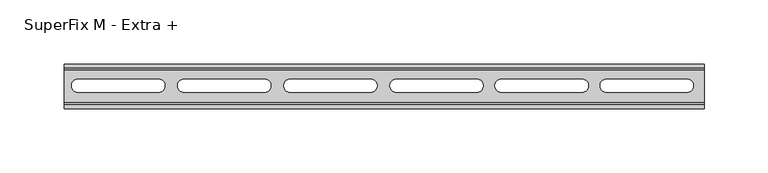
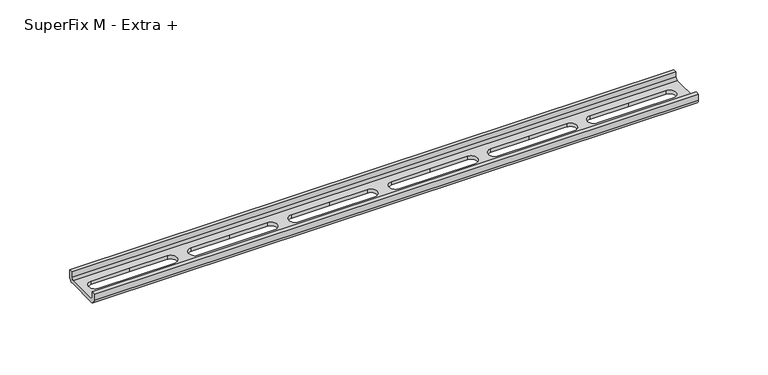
"""IFC4 building model written with IfcOpenShell, lengths in millimetres: valve geometry, Superfix M : SuperFix M - Extra +."""

from ifc_helpers import new_model, si_unit, frame, origin, place, context, project, spatial, polyline, circle_curve, source, transform, mapped, element, save
from ifc_brep_helpers import plane_surface, cylinder_surface, revolved_surface, advanced_brep


def superfix_m_extra_beb970f8(model_context):
    return source(origin(), model_context, "Body", "AdvancedBrep", [
        advanced_brep(
        [(250.0, -17.5, 4.0), (250.0, -13.5, 0.0), (250.0, 13.5, 0.0), (250.0, 17.5, 4.0), (250.0, 17.5, 9.5), (250.0, 14.5, 9.5), (250.0, 14.5, 5.0), (250.0, 12.5, 3.0), (250.0, -12.5, 3.0), (250.0, -14.5, 5.0), (250.0, -14.5, 9.5), (250.0, -17.5, 9.5), (-250.0, -17.5, 4.0), (-250.0, -17.5, 9.5), (-250.0, -14.5, 9.5), (-250.0, -14.5, 5.0), (-250.0, -12.5, 3.0), (-250.0, 12.5, 3.0), (-250.0, 14.5, 5.0), (-250.0, 14.5, 9.5), (-250.0, 17.5, 9.5), (-250.0, 17.5, 4.0), (-250.0, 13.5, 0.0), (-250.0, -13.5, 0.0), (41.0500085, 5.695602, 0.0), (9.7000085, 5.695602, 0.0), (9.7000085, -4.604398, 0.0), (41.0500085, -4.604398, 0.0), (72.4000085, -4.604398, 0.0), (72.4000085, 5.695602, 0.0), (123.1857215, 5.695602, 0.0), (91.8357215, 5.695602, 0.0), (91.8357215, -4.604398, 0.0), (123.1857215, -4.604398, 0.0), (154.5357215, -4.604398, 0.0), (154.5357215, 5.695602, 0.0), (205.3214346, 5.695602, 0.0), (173.9714346, 5.695602, 0.0), (173.9714346, -4.604398, 0.0), (205.3214346, -4.604398, 0.0), (236.6714346, -4.604398, 0.0), (236.6714346, 5.695602, 0.0), (-41.8529629, 5.695602, 0.0), (-73.2029629, 5.695602, 0.0), (-73.2029629, -4.604398, 0.0), (-41.8529629, -4.604398, 0.0), (-10.5029629, -4.604398, 0.0), (-10.5029629, 5.695602, 0.0), (-124.7559344, 5.695602, 0.0), (-156.1059344, 5.695602, 0.0), (-156.1059344, -4.604398, 0.0), (-124.7559344, -4.604398, 0.0), (-93.4059344, -4.604398, 0.0), (-93.4059344, 5.695602, 0.0), (-207.6589058, 5.695602, 0.0), (-239.0089058, 5.695602, 0.0), (-239.0089058, -4.604398, 0.0), (-207.6589058, -4.604398, 0.0), (-176.3089058, -4.604398, 0.0), (-176.3089058, 5.695602, 0.0), (9.7000085, 5.695602, 3.0), (41.0500085, 5.695602, 3.0), (72.4000085, 5.695602, 3.0), (72.4000085, -4.604398, 3.0), (41.0500085, -4.604398, 3.0), (9.7000085, -4.604398, 3.0), (91.8357215, 5.695602, 3.0), (123.1857215, 5.695602, 3.0), (154.5357215, 5.695602, 3.0), (154.5357215, -4.604398, 3.0), (123.1857215, -4.604398, 3.0), (91.8357215, -4.604398, 3.0), (173.9714346, 5.695602, 3.0), (205.3214346, 5.695602, 3.0), (236.6714346, 5.695602, 3.0), (236.6714346, -4.604398, 3.0), (205.3214346, -4.604398, 3.0), (173.9714346, -4.604398, 3.0), (-73.2029629, 5.695602, 3.0), (-41.8529629, 5.695602, 3.0), (-10.5029629, 5.695602, 3.0), (-10.5029629, -4.604398, 3.0), (-41.8529629, -4.604398, 3.0), (-73.2029629, -4.604398, 3.0), (-156.1059344, 5.695602, 3.0), (-124.7559344, 5.695602, 3.0), (-93.4059344, 5.695602, 3.0), (-93.4059344, -4.604398, 3.0), (-124.7559344, -4.604398, 3.0), (-156.1059344, -4.604398, 3.0), (-239.0089058, 5.695602, 3.0), (-207.6589058, 5.695602, 3.0), (-176.3089058, 5.695602, 3.0), (-176.3089058, -4.604398, 3.0), (-207.6589058, -4.604398, 3.0), (-239.0089058, -4.604398, 3.0)],
        [
            (0, 1, circle_curve(frame((250.0, -13.5, 4.0), z_axis=(1.0, 0.0, 0.0), x_axis=(0.0, 1.0, 0.0)), 4.0)),
            (1, 2),
            (2, 3, circle_curve(frame((250.0, 13.5, 4.0), z_axis=(1.0, 0.0, 0.0), x_axis=(0.0, 1.0, 0.0)), 4.0)),
            (3, 4),
            (4, 5),
            (5, 6),
            (6, 7, circle_curve(frame((250.0, 12.5, 5.0), z_axis=(-1.0, 0.0, 0.0), x_axis=(0.0, 1.0, 0.0)), 2.0)),
            (7, 8),
            (8, 9, circle_curve(frame((250.0, -12.5, 5.0), z_axis=(-1.0, 0.0, 0.0), x_axis=(0.0, 1.0, 0.0)), 2.0)),
            (9, 10),
            (10, 11),
            (11, 0),
            (12, 13),
            (13, 14),
            (14, 15),
            (15, 16, circle_curve(frame((-250.0, -12.5, 5.0), z_axis=(1.0, 0.0, 0.0), x_axis=(0.0, 1.0, 0.0)), 2.0)),
            (16, 17),
            (17, 18, circle_curve(frame((-250.0, 12.5, 5.0), z_axis=(1.0, 0.0, 0.0), x_axis=(0.0, 1.0, 0.0)), 2.0)),
            (18, 19),
            (19, 20),
            (20, 21),
            (21, 22, circle_curve(frame((-250.0, 13.5, 4.0), z_axis=(-1.0, 0.0, 0.0), x_axis=(0.0, 1.0, 0.0)), 4.0)),
            (22, 23),
            (23, 12, circle_curve(frame((-250.0, -13.5, 4.0), z_axis=(-1.0, 0.0, 0.0), x_axis=(0.0, 1.0, 0.0)), 4.0)),
            (1, 23),
            (22, 2),
            (24, 25),
            (25, 26, circle_curve(frame((9.7000085, 0.545602, 0.0), z_axis=(0.0, 0.0, 1.0), x_axis=(0.0, 1.0, 0.0)), 5.15)),
            (26, 27),
            (27, 28),
            (28, 29, circle_curve(frame((72.4000085, 0.545602, 0.0), z_axis=(0.0, 0.0, 1.0), x_axis=(0.0, 1.0, 0.0)), 5.15)),
            (29, 24),
            (30, 31),
            (31, 32, circle_curve(frame((91.8357215, 0.545602, 0.0), z_axis=(0.0, 0.0, 1.0), x_axis=(0.0, 1.0, 0.0)), 5.15)),
            (32, 33),
            (33, 34),
            (34, 35, circle_curve(frame((154.5357215, 0.545602, 0.0), z_axis=(0.0, 0.0, 1.0), x_axis=(0.0, 1.0, 0.0)), 5.15)),
            (35, 30),
            (36, 37),
            (37, 38, circle_curve(frame((173.9714346, 0.545602, 0.0), z_axis=(0.0, 0.0, 1.0), x_axis=(0.0, 1.0, 0.0)), 5.15)),
            (38, 39),
            (39, 40),
            (40, 41, circle_curve(frame((236.6714346, 0.545602, 0.0), z_axis=(0.0, 0.0, 1.0), x_axis=(0.0, 1.0, 0.0)), 5.15)),
            (41, 36),
            (42, 43),
            (43, 44, circle_curve(frame((-73.2029629, 0.545602, 0.0), z_axis=(0.0, 0.0, 1.0), x_axis=(0.0, 1.0, 0.0)), 5.15)),
            (44, 45),
            (45, 46),
            (46, 47, circle_curve(frame((-10.5029629, 0.545602, 0.0), z_axis=(0.0, 0.0, 1.0), x_axis=(0.0, 1.0, 0.0)), 5.15)),
            (47, 42),
            (48, 49),
            (49, 50, circle_curve(frame((-156.1059344, 0.545602, 0.0), z_axis=(0.0, 0.0, 1.0), x_axis=(0.0, 1.0, 0.0)), 5.15)),
            (50, 51),
            (51, 52),
            (52, 53, circle_curve(frame((-93.4059344, 0.545602, 0.0), z_axis=(0.0, 0.0, 1.0), x_axis=(0.0, 1.0, 0.0)), 5.15)),
            (53, 48),
            (54, 55),
            (55, 56, circle_curve(frame((-239.0089058, 0.545602, 0.0), z_axis=(0.0, 0.0, 1.0), x_axis=(0.0, 1.0, 0.0)), 5.15)),
            (56, 57),
            (57, 58),
            (58, 59, circle_curve(frame((-176.3089058, 0.545602, 0.0), z_axis=(0.0, 0.0, 1.0), x_axis=(0.0, 1.0, 0.0)), 5.15)),
            (59, 54),
            (3, 21),
            (20, 4),
            (19, 5),
            (18, 6),
            (7, 17),
            (16, 8),
            (60, 61),
            (61, 62),
            (62, 63, circle_curve(frame((72.4000085, 0.545602, 3.0), z_axis=(0.0, 0.0, -1.0), x_axis=(0.0, 1.0, 0.0)), 5.15)),
            (63, 64),
            (64, 65),
            (65, 60, circle_curve(frame((9.7000085, 0.545602, 3.0), z_axis=(0.0, 0.0, -1.0), x_axis=(0.0, 1.0, 0.0)), 5.15)),
            (66, 67),
            (67, 68),
            (68, 69, circle_curve(frame((154.5357215, 0.545602, 3.0), z_axis=(0.0, 0.0, -1.0), x_axis=(0.0, 1.0, 0.0)), 5.15)),
            (69, 70),
            (70, 71),
            (71, 66, circle_curve(frame((91.8357215, 0.545602, 3.0), z_axis=(0.0, 0.0, -1.0), x_axis=(0.0, 1.0, 0.0)), 5.15)),
            (72, 73),
            (73, 74),
            (74, 75, circle_curve(frame((236.6714346, 0.545602, 3.0), z_axis=(0.0, 0.0, -1.0), x_axis=(0.0, 1.0, 0.0)), 5.15)),
            (75, 76),
            (76, 77),
            (77, 72, circle_curve(frame((173.9714346, 0.545602, 3.0), z_axis=(0.0, 0.0, -1.0), x_axis=(0.0, 1.0, 0.0)), 5.15)),
            (78, 79),
            (79, 80),
            (80, 81, circle_curve(frame((-10.5029629, 0.545602, 3.0), z_axis=(0.0, 0.0, -1.0), x_axis=(0.0, 1.0, 0.0)), 5.15)),
            (81, 82),
            (82, 83),
            (83, 78, circle_curve(frame((-73.2029629, 0.545602, 3.0), z_axis=(0.0, 0.0, -1.0), x_axis=(0.0, 1.0, 0.0)), 5.15)),
            (84, 85),
            (85, 86),
            (86, 87, circle_curve(frame((-93.4059344, 0.545602, 3.0), z_axis=(0.0, 0.0, -1.0), x_axis=(0.0, 1.0, 0.0)), 5.15)),
            (87, 88),
            (88, 89),
            (89, 84, circle_curve(frame((-156.1059344, 0.545602, 3.0), z_axis=(0.0, 0.0, -1.0), x_axis=(0.0, 1.0, 0.0)), 5.15)),
            (90, 91),
            (91, 92),
            (92, 93, circle_curve(frame((-176.3089058, 0.545602, 3.0), z_axis=(0.0, 0.0, -1.0), x_axis=(0.0, 1.0, 0.0)), 5.15)),
            (93, 94),
            (94, 95),
            (95, 90, circle_curve(frame((-239.0089058, 0.545602, 3.0), z_axis=(0.0, 0.0, -1.0), x_axis=(0.0, 1.0, 0.0)), 5.15)),
            (9, 15),
            (14, 10),
            (13, 11),
            (12, 0),
            (60, 25),
            (24, 61),
            (29, 62),
            (28, 63),
            (27, 64),
            (26, 65),
            (66, 31),
            (30, 67),
            (35, 68),
            (34, 69),
            (33, 70),
            (32, 71),
            (72, 37),
            (36, 73),
            (41, 74),
            (40, 75),
            (39, 76),
            (38, 77),
            (78, 43),
            (42, 79),
            (47, 80),
            (46, 81),
            (45, 82),
            (44, 83),
            (84, 49),
            (48, 85),
            (53, 86),
            (52, 87),
            (51, 88),
            (50, 89),
            (90, 55),
            (54, 91),
            (59, 92),
            (58, 93),
            (57, 94),
            (56, 95),
        ],
        [
            plane_surface(frame((250.0, -9.5, 4.0), z_axis=(1.0, 0.0, 0.0), x_axis=(0.0, 0.0, 1.0))),
            plane_surface(frame((-250.0, -9.5, 4.0), z_axis=(-1.0, 0.0, 0.0), x_axis=(0.0, 0.0, -1.0))),
            plane_surface(frame((250.0, -13.5, 0.0), z_axis=(0.0, 0.0, -1.0), x_axis=(-1.0, 0.0, 0.0))),
            plane_surface(frame((250.0, 17.5, 4.0), z_axis=(0.0, 1.0, 0.0), x_axis=(-1.0, 0.0, 0.0))),
            plane_surface(frame((250.0, 17.5, 9.5), z_axis=(0.0, 0.0, 1.0), x_axis=(-1.0, 0.0, 0.0))),
            plane_surface(frame((250.0, 14.5, 9.5), z_axis=(0.0, -1.0, 0.0), x_axis=(-1.0, 0.0, 0.0))),
            plane_surface(frame((250.0, 12.5, 3.0), z_axis=(0.0, 0.0, 1.0), x_axis=(-1.0, 0.0, 0.0))),
            plane_surface(frame((250.0, -14.5, 5.0), z_axis=(0.0, 1.0, 0.0), x_axis=(-1.0, 0.0, 0.0))),
            plane_surface(frame((250.0, -14.5, 9.5), z_axis=(0.0, 0.0, 1.0), x_axis=(-1.0, 0.0, 0.0))),
            plane_surface(frame((250.0, -17.5, 9.5), z_axis=(0.0, -1.0, 0.0), x_axis=(-1.0, 0.0, 0.0))),
            cylinder_surface(frame((-250.0, -13.5, 4.0), z_axis=(1.0, 0.0, 0.0), x_axis=(0.0, 1.0, 0.0)), 4.0),
            cylinder_surface(frame((-250.0, 13.5, 4.0), z_axis=(1.0, 0.0, 0.0), x_axis=(0.0, 1.0, 0.0)), 4.0),
            revolved_surface(polyline([(-250.0, 14.5, 5.0), (250.0, 14.5, 5.0)]), (-250.0, 12.5, 5.0), (-1.0, 0.0, 0.0)),
            revolved_surface(polyline([(-250.0, -10.5, 5.0), (250.0, -10.5, 5.0)]), (-250.0, -12.5, 5.0), (-1.0, 0.0, 0.0)),
            plane_surface(frame((9.7000085, 5.695602, 0.0), z_axis=(0.0, -1.0, 0.0), x_axis=(0.0, 0.0, 1.0))),
            plane_surface(frame((41.0500085, 5.695602, 0.0), z_axis=(0.0, -1.0, 0.0), x_axis=(0.0, 0.0, 1.0))),
            revolved_surface(polyline([(72.4000085, 5.695602, 0.0), (72.4000085, 5.695602, 3.0)]), (72.4000085, 0.545602, 5.0), (0.0, 0.0, -1.0)),
            plane_surface(frame((72.4000085, -4.604398, 0.0), z_axis=(0.0, 1.0, 0.0), x_axis=(0.0, 0.0, 1.0))),
            plane_surface(frame((41.0500085, -4.604398, 0.0), z_axis=(0.0, 1.0, 0.0), x_axis=(0.0, 0.0, 1.0))),
            revolved_surface(polyline([(9.7000085, 5.695602, 0.0), (9.7000085, 5.695602, 3.0)]), (9.7000085, 0.545602, 5.0), (0.0, 0.0, -1.0)),
            plane_surface(frame((91.8357215, 5.695602, 0.0), z_axis=(0.0, -1.0, 0.0), x_axis=(0.0, 0.0, 1.0))),
            plane_surface(frame((123.1857215, 5.695602, 0.0), z_axis=(0.0, -1.0, 0.0), x_axis=(0.0, 0.0, 1.0))),
            revolved_surface(polyline([(154.5357215, 5.695602, 0.0), (154.5357215, 5.695602, 3.0)]), (154.5357215, 0.545602, 5.0), (0.0, 0.0, -1.0)),
            plane_surface(frame((154.5357215, -4.604398, 0.0), z_axis=(0.0, 1.0, 0.0), x_axis=(0.0, 0.0, 1.0))),
            plane_surface(frame((123.1857215, -4.604398, 0.0), z_axis=(0.0, 1.0, 0.0), x_axis=(0.0, 0.0, 1.0))),
            revolved_surface(polyline([(91.8357215, 5.695602, 0.0), (91.8357215, 5.695602, 3.0)]), (91.8357215, 0.545602, 5.0), (0.0, 0.0, -1.0)),
            plane_surface(frame((173.9714346, 5.695602, 0.0), z_axis=(0.0, -1.0, 0.0), x_axis=(0.0, 0.0, 1.0))),
            plane_surface(frame((205.3214346, 5.695602, 0.0), z_axis=(0.0, -1.0, 0.0), x_axis=(0.0, 0.0, 1.0))),
            revolved_surface(polyline([(236.6714346, 5.695602, 0.0), (236.6714346, 5.695602, 3.0)]), (236.6714346, 0.545602, 5.0), (0.0, 0.0, -1.0)),
            plane_surface(frame((236.6714346, -4.604398, 0.0), z_axis=(0.0, 1.0, 0.0), x_axis=(0.0, 0.0, 1.0))),
            plane_surface(frame((205.3214346, -4.604398, 0.0), z_axis=(0.0, 1.0, 0.0), x_axis=(0.0, 0.0, 1.0))),
            revolved_surface(polyline([(173.9714346, 5.695602, 0.0), (173.9714346, 5.695602, 3.0)]), (173.9714346, 0.545602, 5.0), (0.0, 0.0, -1.0)),
            plane_surface(frame((-73.2029629, 5.695602, 0.0), z_axis=(0.0, -1.0, 0.0), x_axis=(0.0, 0.0, 1.0))),
            plane_surface(frame((-41.8529629, 5.695602, 0.0), z_axis=(0.0, -1.0, 0.0), x_axis=(0.0, 0.0, 1.0))),
            revolved_surface(polyline([(-10.5029629, 5.695602, 0.0), (-10.5029629, 5.695602, 3.0)]), (-10.5029629, 0.545602, 5.0), (0.0, 0.0, -1.0)),
            plane_surface(frame((-10.5029629, -4.604398, 0.0), z_axis=(0.0, 1.0, 0.0), x_axis=(0.0, 0.0, 1.0))),
            plane_surface(frame((-41.8529629, -4.604398, 0.0), z_axis=(0.0, 1.0, 0.0), x_axis=(0.0, 0.0, 1.0))),
            revolved_surface(polyline([(-73.2029629, 5.695602, 0.0), (-73.2029629, 5.695602, 3.0)]), (-73.2029629, 0.545602, 5.0), (0.0, 0.0, -1.0)),
            plane_surface(frame((-156.1059344, 5.695602, 0.0), z_axis=(0.0, -1.0, 0.0), x_axis=(0.0, 0.0, 1.0))),
            plane_surface(frame((-124.7559344, 5.695602, 0.0), z_axis=(0.0, -1.0, 0.0), x_axis=(0.0, 0.0, 1.0))),
            revolved_surface(polyline([(-93.4059344, 5.695602, 0.0), (-93.4059344, 5.695602, 3.0)]), (-93.4059344, 0.545602, 5.0), (0.0, 0.0, -1.0)),
            plane_surface(frame((-93.4059344, -4.604398, 0.0), z_axis=(0.0, 1.0, 0.0), x_axis=(0.0, 0.0, 1.0))),
            plane_surface(frame((-124.7559344, -4.604398, 0.0), z_axis=(0.0, 1.0, 0.0), x_axis=(0.0, 0.0, 1.0))),
            revolved_surface(polyline([(-156.1059344, 5.695602, 0.0), (-156.1059344, 5.695602, 3.0)]), (-156.1059344, 0.545602, 5.0), (0.0, 0.0, -1.0)),
            plane_surface(frame((-239.0089058, 5.695602, 0.0), z_axis=(0.0, -1.0, 0.0), x_axis=(0.0, 0.0, 1.0))),
            plane_surface(frame((-207.6589058, 5.695602, 0.0), z_axis=(0.0, -1.0, 0.0), x_axis=(0.0, 0.0, 1.0))),
            revolved_surface(polyline([(-176.3089058, 5.695602, 0.0), (-176.3089058, 5.695602, 3.0)]), (-176.3089058, 0.545602, 5.0), (0.0, 0.0, -1.0)),
            plane_surface(frame((-176.3089058, -4.604398, 0.0), z_axis=(0.0, 1.0, 0.0), x_axis=(0.0, 0.0, 1.0))),
            plane_surface(frame((-207.6589058, -4.604398, 0.0), z_axis=(0.0, 1.0, 0.0), x_axis=(0.0, 0.0, 1.0))),
            revolved_surface(polyline([(-239.0089058, 5.695602, 0.0), (-239.0089058, 5.695602, 3.0)]), (-239.0089058, 0.545602, 5.0), (0.0, 0.0, -1.0)),
        ],
        [
            (0, [[1, 2, 3, 4, 5, 6, 7, 8, 9, 10, 11, 12]]),
            (1, [[13, 14, 15, 16, 17, 18, 19, 20, 21, 22, 23, 24]]),
            (2, [[-2, 25, -23, 26], [27, 28, 29, 30, 31, 32], [33, 34, 35, 36, 37, 38], [39, 40, 41, 42, 43, 44], [45, 46, 47, 48, 49, 50], [51, 52, 53, 54, 55, 56], [57, 58, 59, 60, 61, 62]]),
            (3, [[-4, 63, -21, 64]]),
            (4, [[-5, -64, -20, 65]]),
            (5, [[-6, -65, -19, 66]]),
            (6, [[-8, 67, -17, 68], [69, 70, 71, 72, 73, 74], [75, 76, 77, 78, 79, 80], [81, 82, 83, 84, 85, 86], [87, 88, 89, 90, 91, 92], [93, 94, 95, 96, 97, 98], [99, 100, 101, 102, 103, 104]]),
            (7, [[-10, 105, -15, 106]]),
            (8, [[-11, -106, -14, 107]]),
            (9, [[-12, -107, -13, 108]]),
            (10, [[-1, -108, -24, -25]]),
            (11, [[-3, -26, -22, -63]]),
            (12, [[-7, -66, -18, -67]]),
            (13, [[-9, -68, -16, -105]]),
            (14, [[109, -27, 110, -69]]),
            (15, [[-110, -32, 111, -70]]),
            (16, [[-111, -31, 112, -71]]),
            (17, [[-112, -30, 113, -72]]),
            (18, [[-113, -29, 114, -73]]),
            (19, [[-109, -74, -114, -28]]),
            (20, [[115, -33, 116, -75]]),
            (21, [[-116, -38, 117, -76]]),
            (22, [[-117, -37, 118, -77]]),
            (23, [[-118, -36, 119, -78]]),
            (24, [[-119, -35, 120, -79]]),
            (25, [[-115, -80, -120, -34]]),
            (26, [[121, -39, 122, -81]]),
            (27, [[-122, -44, 123, -82]]),
            (28, [[-123, -43, 124, -83]]),
            (29, [[-124, -42, 125, -84]]),
            (30, [[-125, -41, 126, -85]]),
            (31, [[-121, -86, -126, -40]]),
            (32, [[127, -45, 128, -87]]),
            (33, [[-128, -50, 129, -88]]),
            (34, [[-129, -49, 130, -89]]),
            (35, [[-130, -48, 131, -90]]),
            (36, [[-131, -47, 132, -91]]),
            (37, [[-127, -92, -132, -46]]),
            (38, [[133, -51, 134, -93]]),
            (39, [[-134, -56, 135, -94]]),
            (40, [[-135, -55, 136, -95]]),
            (41, [[-136, -54, 137, -96]]),
            (42, [[-137, -53, 138, -97]]),
            (43, [[-133, -98, -138, -52]]),
            (44, [[139, -57, 140, -99]]),
            (45, [[-140, -62, 141, -100]]),
            (46, [[-141, -61, 142, -101]]),
            (47, [[-142, -60, 143, -102]]),
            (48, [[-143, -59, 144, -103]]),
            (49, [[-139, -104, -144, -58]]),
        ],
    ),
    ])


if __name__ == "__main__":
    model = new_model("IFC4")
    model_context = context("Model", 3, world=origin())
    ifc_project = project(units=[si_unit("LENGTHUNIT", "METRE", prefix="MILLI")], contexts=[model_context])
    site = spatial("IfcSite", under=ifc_project)
    building = spatial("IfcBuilding", under=site)
    placement = place(None, origin())
    superfix_m_extra_shape = superfix_m_extra_beb970f8(model_context)
    element("IfcValve", 1, ObjectType="Superfix M : SuperFix M - Extra +", at=placement, inside=building, context=model_context, shape_type="MappedRepresentation", body=[
        mapped(superfix_m_extra_shape, transform((0.0, 0.0, 0.0), x_axis=(1.0, 0.0, 0.0), y_axis=(0.0, 1.0, 0.0), z_axis=(0.0, 0.0, 1.0))),
    ])
    save(model, "model.ifc")
